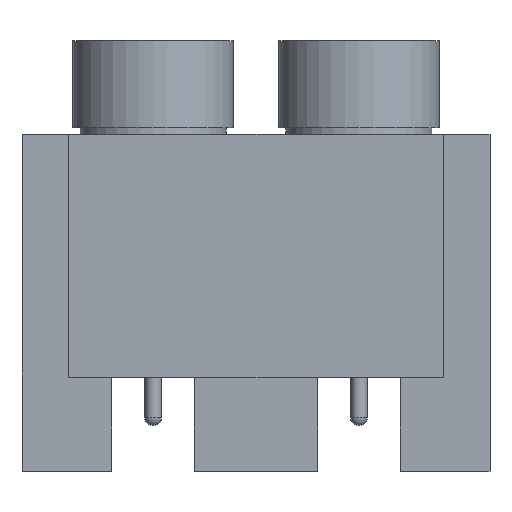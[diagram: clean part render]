
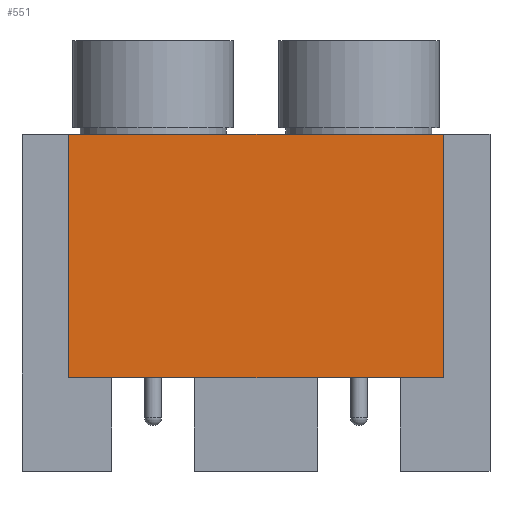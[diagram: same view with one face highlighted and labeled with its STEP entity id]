
A CAD part, front view. The second image highlights one B-rep face of the part: STEP entity #551.
In plain terms, the highlighted planar face has unit normal (0, -1, 0).
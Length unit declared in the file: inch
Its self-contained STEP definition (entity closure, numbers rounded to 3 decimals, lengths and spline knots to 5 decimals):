
#152 = ORIENTED_EDGE ( 'NONE', *, *, #1593, .T. ) ;
#168 = EDGE_CURVE ( 'NONE', #1285, #3073, #1529, .T. ) ;
#444 = AXIS2_PLACEMENT_3D ( 'NONE', #3161, #1516, #839 ) ;
#551 = ADVANCED_FACE ( 'NONE', ( #3049 ), #3896, .F. ) ;
#575 = CARTESIAN_POINT ( 'NONE',  ( 0.25, 0., 0. ) ) ;
#724 = DIRECTION ( 'NONE',  ( 0., 0., -1. ) ) ;
#732 = DIRECTION ( 'NONE',  ( 0., 0., -1. ) ) ;
#839 = DIRECTION ( 'NONE',  ( 0., 0., 1. ) ) ;
#945 = LINE ( 'NONE', #3196, #1711 ) ;
#1004 = CARTESIAN_POINT ( 'NONE',  ( 0.025, 0., 0. ) ) ;
#1057 = CARTESIAN_POINT ( 'NONE',  ( 0.225, 0., 0. ) ) ;
#1226 = VECTOR ( 'NONE', #724, 39.37008 ) ;
#1285 = VERTEX_POINT ( 'NONE', #3212 ) ;
#1429 = EDGE_CURVE ( 'NONE', #1620, #2569, #1931, .T. ) ;
#1516 = DIRECTION ( 'NONE',  ( 0., 1., 0. ) ) ;
#1524 = CARTESIAN_POINT ( 'NONE',  ( 0.225, 0., -0.13 ) ) ;
#1529 = LINE ( 'NONE', #1057, #3350 ) ;
#1593 = EDGE_CURVE ( 'NONE', #1285, #1620, #3425, .T. ) ;
#1620 = VERTEX_POINT ( 'NONE', #1004 ) ;
#1711 = VECTOR ( 'NONE', #2497, 39.37008 ) ;
#1931 = LINE ( 'NONE', #3640, #1226 ) ;
#2228 = ORIENTED_EDGE ( 'NONE', *, *, #3299, .F. ) ;
#2431 = ORIENTED_EDGE ( 'NONE', *, *, #168, .F. ) ;
#2497 = DIRECTION ( 'NONE',  ( -1., 0., 0. ) ) ;
#2569 = VERTEX_POINT ( 'NONE', #3014 ) ;
#2928 = ORIENTED_EDGE ( 'NONE', *, *, #1429, .T. ) ;
#3014 = CARTESIAN_POINT ( 'NONE',  ( 0.025, 0., -0.13 ) ) ;
#3049 = FACE_OUTER_BOUND ( 'NONE', #3868, .T. ) ;
#3073 = VERTEX_POINT ( 'NONE', #1524 ) ;
#3161 = CARTESIAN_POINT ( 'NONE',  ( 0.25, 0., 0. ) ) ;
#3196 = CARTESIAN_POINT ( 'NONE',  ( 0.25, 0., -0.13 ) ) ;
#3212 = CARTESIAN_POINT ( 'NONE',  ( 0.225, 0., 0. ) ) ;
#3299 = EDGE_CURVE ( 'NONE', #3073, #2569, #945, .T. ) ;
#3350 = VECTOR ( 'NONE', #732, 39.37008 ) ;
#3425 = LINE ( 'NONE', #575, #3745 ) ;
#3640 = CARTESIAN_POINT ( 'NONE',  ( 0.025, 0., 0. ) ) ;
#3745 = VECTOR ( 'NONE', #4207, 39.37008 ) ;
#3868 = EDGE_LOOP ( 'NONE', ( #152, #2928, #2228, #2431 ) ) ;
#3896 = PLANE ( 'NONE',  #444 ) ;
#4207 = DIRECTION ( 'NONE',  ( -1., 0., 0. ) ) ;
